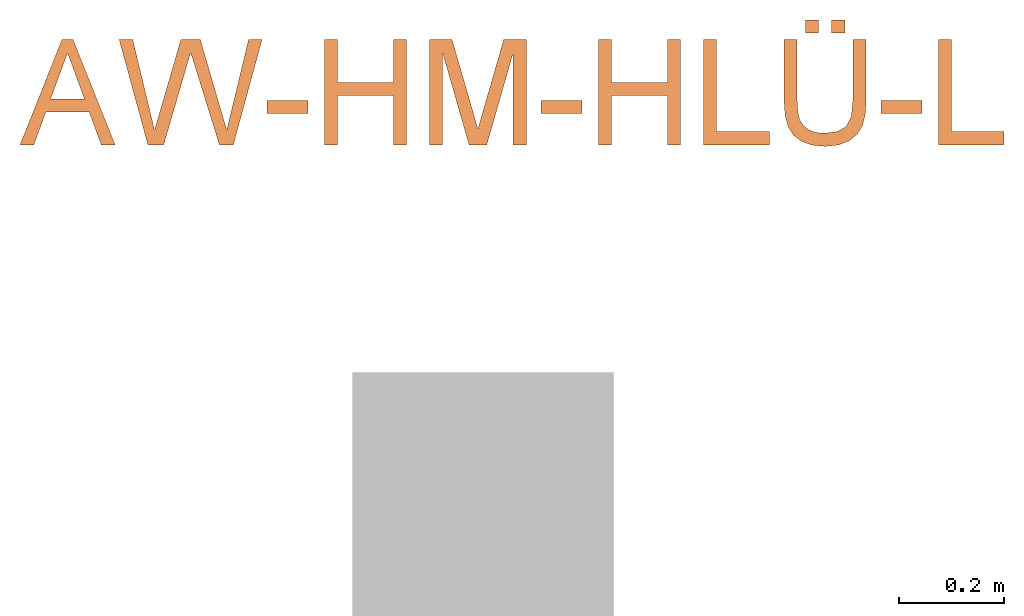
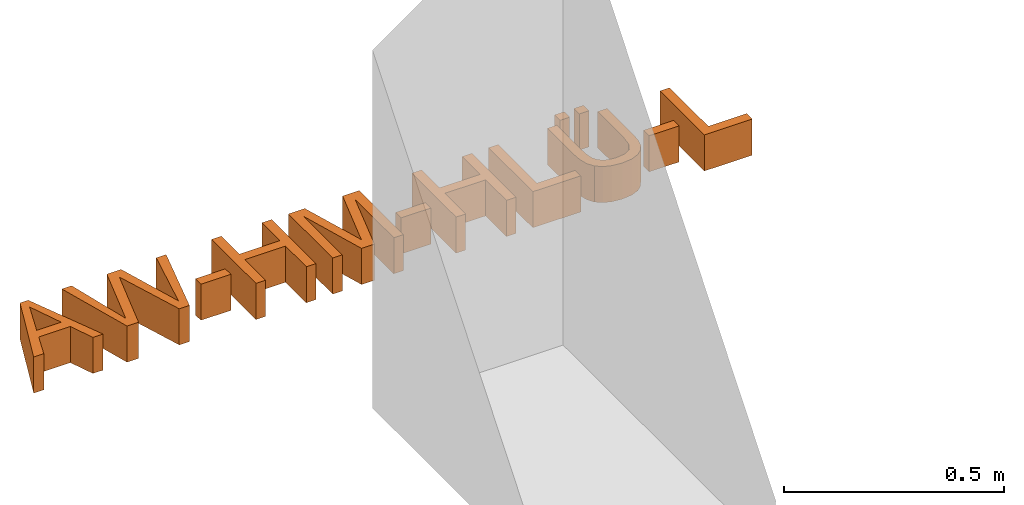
# Not in any storey, part 2 of 2: 1 proxy.
"""IFC2X3 model written with IfcOpenShell, lengths in metres."""

from ifc_helpers import new_model, entity, si_unit, converted_unit, derived_unit, direction, frame, frame_2d, origin, place, context, subcontext, project, spatial, polyline, rectangle, outline, extrude, type_object, element, save


model = new_model("IFC2X3")

# Units and contexts
model_context = context("Model", 3, precision=1e-05, world=origin(), true_north=direction((6.123031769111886e-17, 1.0)))
body_context = subcontext(model_context, "Body", "Model", "MODEL_VIEW")
ifc_project = project(units=[si_unit("LENGTHUNIT", "METRE"), si_unit("AREAUNIT", "SQUARE_METRE"), si_unit("VOLUMEUNIT", "CUBIC_METRE"), converted_unit("PLANEANGLEUNIT", "DEGREE", entity("IfcRatioMeasure", 0.017453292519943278), si_unit("PLANEANGLEUNIT", "RADIAN"), dimensions=[0, 0, 0, 0, 0, 0, 0]), si_unit("MASSUNIT", "GRAM", prefix="KILO"), derived_unit("MASSDENSITYUNIT", [(si_unit("MASSUNIT", "GRAM", prefix="KILO"), 1), (si_unit("LENGTHUNIT", "METRE"), -3)]), derived_unit("MOMENTOFINERTIAUNIT", [(si_unit("LENGTHUNIT", "METRE"), 4)]), si_unit("TIMEUNIT", "SECOND"), si_unit("FREQUENCYUNIT", "HERTZ"), si_unit("THERMODYNAMICTEMPERATUREUNIT", "DEGREE_CELSIUS"), derived_unit("THERMALTRANSMITTANCEUNIT", [(si_unit("MASSUNIT", "GRAM", prefix="KILO"), 1), (si_unit("THERMODYNAMICTEMPERATUREUNIT", "KELVIN"), -1), (si_unit("TIMEUNIT", "SECOND"), -3)]), derived_unit("VOLUMETRICFLOWRATEUNIT", [(si_unit("LENGTHUNIT", "METRE"), 3), (si_unit("TIMEUNIT", "SECOND"), -1)]), derived_unit("MASSFLOWRATEUNIT", [(si_unit("MASSUNIT", "GRAM", prefix="KILO"), 1), (si_unit("TIMEUNIT", "SECOND"), -1)]), derived_unit("ROTATIONALFREQUENCYUNIT", [(si_unit("TIMEUNIT", "SECOND"), -1)]), si_unit("ELECTRICCURRENTUNIT", "AMPERE"), si_unit("ELECTRICVOLTAGEUNIT", "VOLT"), si_unit("POWERUNIT", "WATT"), si_unit("FORCEUNIT", "NEWTON", prefix="KILO"), si_unit("ILLUMINANCEUNIT", "LUX"), si_unit("LUMINOUSFLUXUNIT", "LUMEN"), si_unit("LUMINOUSINTENSITYUNIT", "CANDELA"), derived_unit("USERDEFINED", [(si_unit("MASSUNIT", "GRAM", prefix="KILO"), -1), (si_unit("LENGTHUNIT", "METRE"), -2), (si_unit("TIMEUNIT", "SECOND"), 3), (si_unit("LUMINOUSFLUXUNIT", "LUMEN"), 1)]), derived_unit("SOUNDPOWERUNIT", [(si_unit("MASSUNIT", "GRAM", prefix="KILO"), 1), (si_unit("LENGTHUNIT", "METRE"), 2), (si_unit("TIMEUNIT", "SECOND"), -3)]), derived_unit("SOUNDPRESSUREUNIT", [(si_unit("MASSUNIT", "GRAM", prefix="KILO"), 1), (si_unit("LENGTHUNIT", "METRE"), -1), (si_unit("TIMEUNIT", "SECOND"), -2)]), derived_unit("LINEARVELOCITYUNIT", [(si_unit("LENGTHUNIT", "METRE"), 1), (si_unit("TIMEUNIT", "SECOND"), -1)]), si_unit("PRESSUREUNIT", "PASCAL"), derived_unit("USERDEFINED", [(si_unit("LENGTHUNIT", "METRE"), -2), (si_unit("MASSUNIT", "GRAM", prefix="KILO"), 1), (si_unit("TIMEUNIT", "SECOND"), -2)]), derived_unit("LINEARFORCEUNIT", [(si_unit("MASSUNIT", "GRAM", prefix="KILO"), 1), (si_unit("LENGTHUNIT", "METRE"), 1), (si_unit("TIMEUNIT", "SECOND"), -2), (si_unit("LENGTHUNIT", "METRE"), -1)]), derived_unit("PLANARFORCEUNIT", [(si_unit("MASSUNIT", "GRAM", prefix="KILO"), 1), (si_unit("LENGTHUNIT", "METRE"), 1), (si_unit("TIMEUNIT", "SECOND"), -2), (si_unit("LENGTHUNIT", "METRE"), -2)])], contexts=[model_context])

# Site
site_placement = place(None, origin())
site = spatial("IfcSite", under=ifc_project, at=site_placement, Name="Default", CompositionType="ELEMENT")

# Proxy
building_element_proxy_type = type_object("IfcBuildingElementProxyType", Name="Modelltext:600mm Arial", PredefinedType="NOTDEFINED")
proxy_placement = place(site_placement, origin())
element("IfcBuildingElementProxy", 1, at=proxy_placement, inside=site, type_object=building_element_proxy_type, Name="Modelltext:600mm Arial", ObjectType="Modelltext:600mm Arial", context=body_context, shape_type="SweptSolid", body=[
    extrude(outline(polyline([(-0.09088524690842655, -0.0659244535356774), (-0.06434869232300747, -0.0659244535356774), (-0.04139285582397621, -0.003139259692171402), (0.04135606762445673, -0.003139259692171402), (0.06436095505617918, -0.0659244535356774), (0.09089750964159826, -0.0659244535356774), (0.010699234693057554, 0.1349881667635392), (-0.01068697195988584, 0.1349881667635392), (-0.09088524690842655, -0.0659244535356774)]), holes=[polyline([(-0.03217128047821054, 0.021974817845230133), (-0.012501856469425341, 0.07568558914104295), (6.1313665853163e-06, 0.10987408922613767), (0.01408374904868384, 0.07136910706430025), (0.032183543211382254, 0.021974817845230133), (-0.03217128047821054, 0.021974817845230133)])]), frame((7.126382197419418, 24.281613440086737, 0.0)), (0.0, 0.0, 1.0), 0.1),
    extrude(outline(polyline([(-0.08129804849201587, -0.10770552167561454), (-0.050984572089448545, -0.10770552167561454), (-0.007083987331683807, 0.042880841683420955), (0.00046985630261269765, 0.06892688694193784), (0.007189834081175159, 0.047295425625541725), (0.05535784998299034, -0.10770552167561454), (0.08218871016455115, -0.10770552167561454), (0.1370276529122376, 0.09320709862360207), (0.11112876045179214, 0.09320709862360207), (0.07904945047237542, -0.040015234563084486), (0.06953356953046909, -0.0795993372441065), (0.04800021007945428, -0.0059248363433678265), (0.019060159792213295, 0.09320709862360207), (-0.018267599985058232, 0.09320709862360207), (-0.058096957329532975, -0.0435469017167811), (-0.06859385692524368, -0.0795993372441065), (-0.07840404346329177, -0.038838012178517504), (-0.11018904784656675, 0.09320709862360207), (-0.1360879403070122, 0.09320709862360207), (-0.08129804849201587, -0.10770552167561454)])), frame((7.361362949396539, 24.323394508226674, 0.0)), (0.0, 0.0, 1.0), 0.1),
    extrude(rectangle(XDim=0.0784814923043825, YDim=0.02511407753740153, at=frame_2d((1.0824674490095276e-15, 2.1658022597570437e-15), x_axis=(1.0, 0.0))), frame((7.547049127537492, 24.287891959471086, 0.0)), (0.0, 0.0, 1.0), 0.1),
    extrude(outline(polyline([(-0.0784814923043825, -0.10254914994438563), (-0.05336741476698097, -0.10254914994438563), (-0.05336741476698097, -0.008371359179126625), (0.053367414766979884, -0.008371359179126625), (0.053367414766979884, -0.10254914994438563), (0.0784814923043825, -0.10254914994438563), (0.0784814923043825, 0.09836347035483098), (0.053367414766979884, 0.09836347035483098), (0.053367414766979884, 0.01674271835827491), (-0.05336741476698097, 0.01674271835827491), (-0.05336741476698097, 0.09836347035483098), (-0.0784814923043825, 0.09836347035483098), (-0.0784814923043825, -0.10254914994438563)])), frame((7.69616396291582, 24.318238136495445, 0.0)), (0.0, 0.0, 1.0), 0.1),
    extrude(outline(polyline([(-0.0926539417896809, -0.08706867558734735), (-0.06753986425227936, -0.08706867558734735), (-0.06753986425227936, 0.08872986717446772), (-0.01706645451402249, -0.08706867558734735), (0.016974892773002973, -0.08706867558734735), (0.06744830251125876, 0.08872986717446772), (0.06744830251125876, -0.08706867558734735), (0.09256238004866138, -0.08706867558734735), (0.09256238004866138, 0.11384394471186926), (0.049348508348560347, 0.11384394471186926), (0.008930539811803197, -0.02531355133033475), (-4.57808705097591e-05, -0.0573438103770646), (-0.008335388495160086, -0.02776609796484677), (-0.04944007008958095, 0.11384394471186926), (-0.0926539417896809, 0.11384394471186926), (-0.0926539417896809, -0.08706867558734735)])), frame((7.911249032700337, 24.302757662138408, 0.0)), (0.0, 0.0, 1.0), 0.1),
    extrude(rectangle(XDim=0.0784814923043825, YDim=0.02511407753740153, at=frame_2d((-1.0824674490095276e-15, 2.1658022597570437e-15), x_axis=(1.0, 0.0))), frame((8.071305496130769, 24.287891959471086, 0.0)), (0.0, 0.0, 1.0), 0.1),
    extrude(outline(polyline([(-0.0784814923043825, -0.10254914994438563), (-0.053367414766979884, -0.10254914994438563), (-0.053367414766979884, -0.008371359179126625), (0.053367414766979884, -0.008371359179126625), (0.053367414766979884, -0.10254914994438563), (0.0784814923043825, -0.10254914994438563), (0.0784814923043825, 0.09836347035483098), (0.053367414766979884, 0.09836347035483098), (0.053367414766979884, 0.01674271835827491), (-0.053367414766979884, 0.01674271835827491), (-0.053367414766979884, 0.09836347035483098), (-0.0784814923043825, 0.09836347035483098), (-0.0784814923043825, -0.10254914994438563)])), frame((8.220420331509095, 24.318238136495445, 0.0)), (0.0, 0.0, 1.0), 0.1),
    extrude(outline(polyline([(-0.050228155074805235, -0.0753422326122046), (0.07534223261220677, -0.0753422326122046), (0.07534223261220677, -0.05022815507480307), (-0.025114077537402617, -0.05022815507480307), (-0.025114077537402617, 0.125570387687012), (-0.050228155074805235, 0.125570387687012), (-0.050228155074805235, -0.0753422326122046)])), frame((8.393079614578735, 24.291031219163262, 0.0)), (0.0, 0.0, 1.0), 0.1),
    extrude(rectangle(XDim=0.025114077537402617, YDim=0.02511407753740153, at=frame_2d((5.412337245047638e-16, -2.1658022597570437e-15), x_axis=(1.0, 0.0))), frame((8.550042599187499, 24.44171568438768, 0.0)), (0.0, 0.0, 1.0), 0.1),
    extrude(rectangle(XDim=0.0784814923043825, YDim=0.02511407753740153, at=frame_2d((1.0824674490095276e-15, 2.1658022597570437e-15), x_axis=(1.0, 0.0))), frame((8.721132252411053, 24.287891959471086, 0.0)), (0.0, 0.0, 1.0), 0.1),
    extrude(outline(polyline([(-0.05022815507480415, -0.0753422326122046), (0.07534223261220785, -0.0753422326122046), (0.07534223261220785, -0.05022815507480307), (-0.025114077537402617, -0.05022815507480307), (-0.025114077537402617, 0.125570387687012), (-0.05022815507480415, 0.125570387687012), (-0.05022815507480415, -0.0753422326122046)])), frame((8.841993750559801, 24.291031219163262, 0.0)), (0.0, 0.0, 1.0), 0.1),
    extrude(outline(polyline([(-0.1395577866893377, -0.05596536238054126), (-0.1395577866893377, -0.08107943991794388), (-0.02365043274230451, -0.08107943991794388), (0.003493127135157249, -0.0793749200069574), (0.02439495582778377, -0.07426136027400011), (0.04052044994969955, -0.06470869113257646), (0.05333500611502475, -0.04968684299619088), (0.06170432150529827, -0.029159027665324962), (0.06449409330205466, -0.003088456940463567), (0.06206607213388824, 0.022411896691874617), (0.054782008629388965, 0.042798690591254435), (0.04289328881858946, 0.058078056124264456), (0.02665129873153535, 0.06825612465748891), (0.004866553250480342, 0.0739766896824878), (-0.02365043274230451, 0.07588354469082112), (-0.1395577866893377, 0.07588354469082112), (-0.1395577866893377, 0.050769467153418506), (-0.024533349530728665, 0.050769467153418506), (-0.001963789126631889, 0.04953093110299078), (0.013750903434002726, 0.04581532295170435), (0.02463407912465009, 0.039083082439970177), (0.03270908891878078, 0.02879464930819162), (0.03771228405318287, 0.015379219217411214), (0.03938001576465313, -0.0007340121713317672), (0.03608134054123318, -0.026277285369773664), (0.026185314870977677, -0.04326117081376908), (0.006908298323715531, -0.05278931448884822), (-0.024533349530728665, -0.05596536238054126), (-0.1395577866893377, -0.05596536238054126)])), frame((8.572558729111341, 24.277043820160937, 0.0), z_axis=(0.0, 0.0, -1.0), x_axis=(0.0, -1.0, 0.0)), (0.0, 0.0, -1.0), 0.1),
    extrude(rectangle(XDim=0.025114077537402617, YDim=0.02511407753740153, at=frame_2d((5.412337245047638e-16, -2.1658022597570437e-15), x_axis=(1.0, 0.0))), frame((8.600270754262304, 24.44171568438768, 0.0)), (0.0, 0.0, 1.0), 0.1),
])

save(model, "model.ifc")
